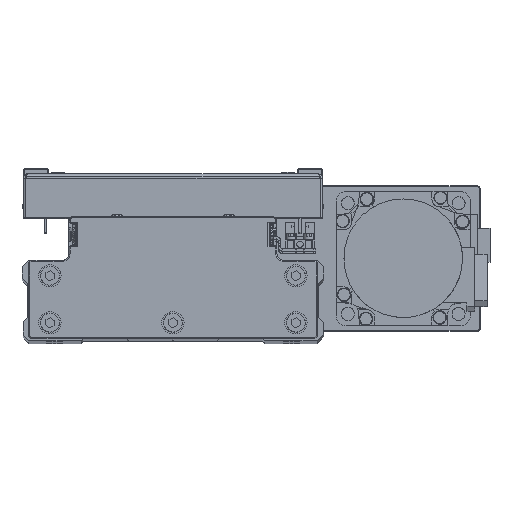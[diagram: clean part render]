
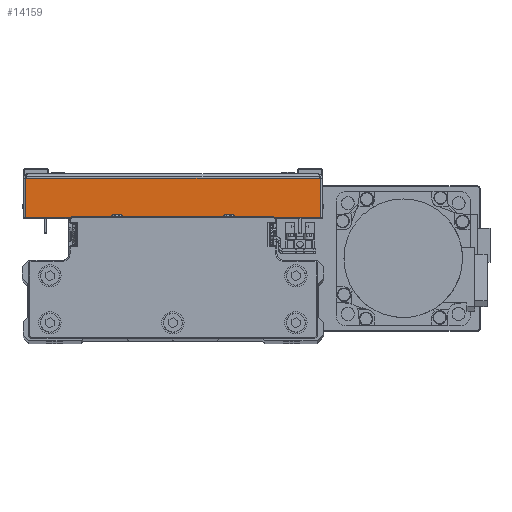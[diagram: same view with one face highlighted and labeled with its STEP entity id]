
A CAD part, top view. The second image highlights one B-rep face of the part: STEP entity #14159.
In plain terms, the highlighted planar face has unit normal (0, 0, 1) as drawn and (1, 0, 0) by its records, which use the part's own axes.
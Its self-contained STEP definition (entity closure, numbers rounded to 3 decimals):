
#1286 = AXIS2_PLACEMENT_3D ( 'NONE', #35897, #5241, #18899 ) ;
#4149 = VECTOR ( 'NONE', #35462, 1000. ) ;
#4151 = LINE ( 'NONE', #17815, #10752 ) ;
#5241 = DIRECTION ( 'NONE',  ( -1., 0., 0. ) ) ;
#5812 = ORIENTED_EDGE ( 'NONE', *, *, #40652, .F. ) ;
#7146 = VERTEX_POINT ( 'NONE', #8653 ) ;
#8160 = LINE ( 'NONE', #21824, #4149 ) ;
#8605 = FACE_OUTER_BOUND ( 'NONE', #10745, .T. ) ;
#8641 = VECTOR ( 'NONE', #12830, 1000. ) ;
#8653 = CARTESIAN_POINT ( 'NONE',  ( 100., 1., -65.929 ) ) ;
#9492 = EDGE_CURVE ( 'NONE', #43360, #32709, #10648, .T. ) ;
#9749 = ORIENTED_EDGE ( 'NONE', *, *, #20983, .T. ) ;
#9968 = VERTEX_POINT ( 'NONE', #27825 ) ;
#10648 = LINE ( 'NONE', #24297, #30609 ) ;
#10745 = EDGE_LOOP ( 'NONE', ( #5812, #9749, #34545, #36731 ) ) ;
#10752 = VECTOR ( 'NONE', #31444, 1000. ) ;
#12830 = DIRECTION ( 'NONE',  ( 0., 1., 0. ) ) ;
#14159 = ADVANCED_FACE ( 'NONE', ( #8605 ), #22261, .F. ) ;
#17815 = CARTESIAN_POINT ( 'NONE',  ( 100., 0., 65.929 ) ) ;
#18899 = DIRECTION ( 'NONE',  ( 0., -1., 0. ) ) ;
#20983 = EDGE_CURVE ( 'NONE', #7146, #43360, #29834, .T. ) ;
#21824 = CARTESIAN_POINT ( 'NONE',  ( 100., 1., 67. ) ) ;
#22261 = PLANE ( 'NONE',  #1286 ) ;
#24297 = CARTESIAN_POINT ( 'NONE',  ( 100., 18.5, 0. ) ) ;
#26726 = EDGE_CURVE ( 'NONE', #9968, #32709, #4151, .T. ) ;
#27825 = CARTESIAN_POINT ( 'NONE',  ( 100., 1., 65.929 ) ) ;
#29834 = LINE ( 'NONE', #43481, #8641 ) ;
#30609 = VECTOR ( 'NONE', #37938, 1000. ) ;
#31444 = DIRECTION ( 'NONE',  ( 0., 1., 0. ) ) ;
#32709 = VERTEX_POINT ( 'NONE', #41553 ) ;
#33863 = CARTESIAN_POINT ( 'NONE',  ( 100., 18.5, -65.929 ) ) ;
#34545 = ORIENTED_EDGE ( 'NONE', *, *, #9492, .T. ) ;
#35462 = DIRECTION ( 'NONE',  ( 0., 0., 1. ) ) ;
#35897 = CARTESIAN_POINT ( 'NONE',  ( 100., 0., 0. ) ) ;
#36731 = ORIENTED_EDGE ( 'NONE', *, *, #26726, .F. ) ;
#37938 = DIRECTION ( 'NONE',  ( 0., 0., 1. ) ) ;
#40652 = EDGE_CURVE ( 'NONE', #7146, #9968, #8160, .T. ) ;
#41553 = CARTESIAN_POINT ( 'NONE',  ( 100., 18.5, 65.929 ) ) ;
#43360 = VERTEX_POINT ( 'NONE', #33863 ) ;
#43481 = CARTESIAN_POINT ( 'NONE',  ( 100., 0., -65.929 ) ) ;
